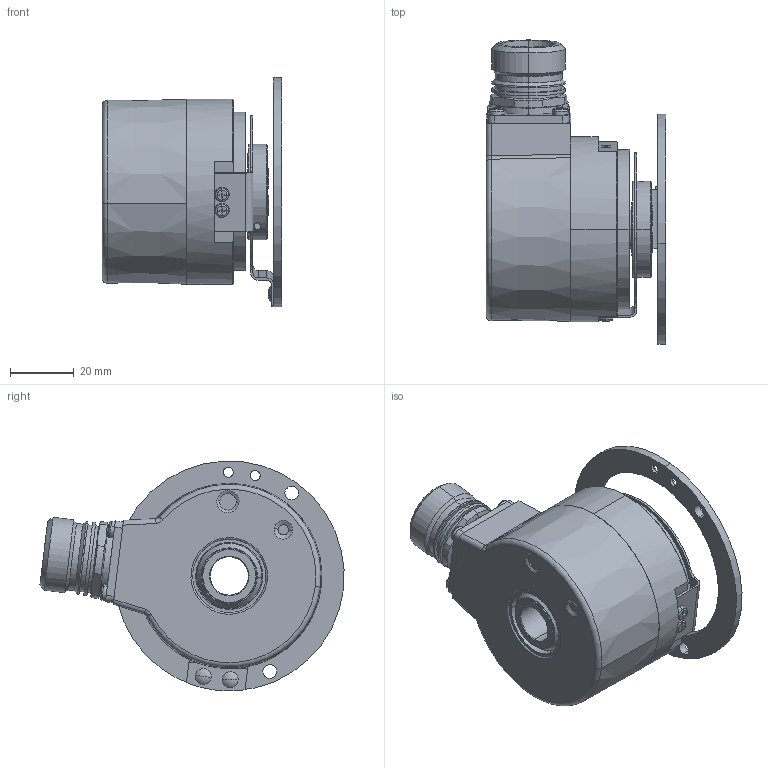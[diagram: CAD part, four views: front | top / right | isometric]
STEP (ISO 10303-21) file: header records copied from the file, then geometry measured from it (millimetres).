
FILE_DESCRIPTION (( 'STEP AP214' ), '1' );
FILE_NAME ('5873.3424.XXXX.STEP', '2008-05-29T05:51:44', ( 'admin' ), ( 'Fritz Kübler GmbH' ), 'SwSTEP 2.0', 'SolidWorks 2007', '' );
FILE_SCHEMA (( 'AUTOMOTIVE_DESIGN' ));
Length unit declared in the file: millimetre
Products named in the file (1): 5873.3424.XXXX
Bounding box: 56.2 x 95.23 x 71.93 mm (x, y, z)
Surface area: 32261.8 mm2 (no closed solid volume)
Topology: 0 solids, 44 shells, 456 faces, 1305 edges, 867 vertices
Faces by surface type: cylinder 178, plane 145, cone 67, sphere 36, torus 26, bspline 4
Entity records: 20325 total; most frequent: CARTESIAN_POINT 3116, DIRECTION 2809, ORIENTED_EDGE 2242, EDGE_CURVE 1281, AXIS2_PLACEMENT_3D 1142, VERTEX_POINT 867, CIRCLE 689, EDGE_LOOP 543
